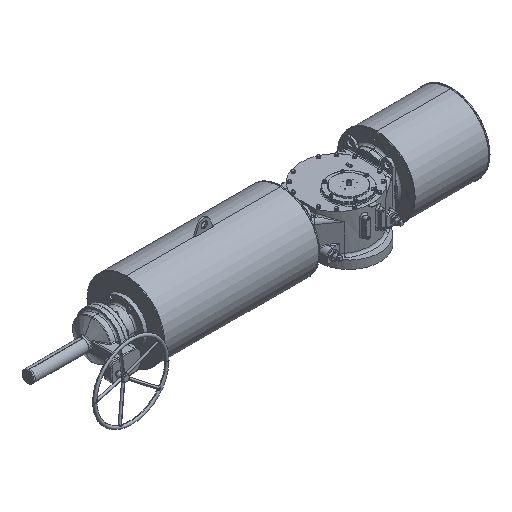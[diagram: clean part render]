
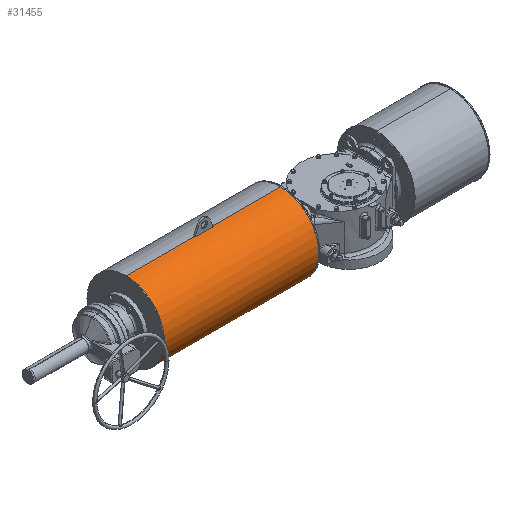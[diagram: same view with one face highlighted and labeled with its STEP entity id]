
A CAD part, isometric view. The second image highlights one B-rep face of the part: STEP entity #31455.
In plain terms, the highlighted cylindrical face has radius 254 mm (diameter 508 mm), a partial arc.
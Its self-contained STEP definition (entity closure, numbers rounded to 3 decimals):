
#366 = EDGE_CURVE ( 'NONE', #21707, #100283, #50944, .T. ) ;
#1524 = EDGE_CURVE ( 'NONE', #23659, #24253, #75421, .T. ) ;
#3847 = LINE ( 'NONE', #37106, #80772 ) ;
#4558 = VERTEX_POINT ( 'NONE', #35256 ) ;
#6576 = AXIS2_PLACEMENT_3D ( 'NONE', #62138, #95925, #104665 ) ;
#8201 = DIRECTION ( 'NONE',  ( -1., 0., 0. ) ) ;
#10791 = EDGE_CURVE ( 'NONE', #23659, #24315, #99770, .T. ) ;
#13623 = EDGE_CURVE ( 'NONE', #91196, #66374, #3847, .T. ) ;
#15274 = EDGE_CURVE ( 'NONE', #4558, #21707, #53353, .T. ) ;
#17625 = DIRECTION ( 'NONE',  ( 0., 0., -1. ) ) ;
#17969 = CARTESIAN_POINT ( 'NONE',  ( -887.5, 135., 366.951 ) ) ;
#21707 = VERTEX_POINT ( 'NONE', #85463 ) ;
#22866 = CARTESIAN_POINT ( 'NONE',  ( -1340.5, 140., 113. ) ) ;
#23573 = DIRECTION ( 'NONE',  ( 0., 0., -1. ) ) ;
#23659 = VERTEX_POINT ( 'NONE', #38846 ) ;
#24253 = VERTEX_POINT ( 'NONE', #102202 ) ;
#24315 = VERTEX_POINT ( 'NONE', #69404 ) ;
#24888 = ORIENTED_EDGE ( 'NONE', *, *, #366, .T. ) ;
#26447 = DIRECTION ( 'NONE',  ( 0., 0., -1. ) ) ;
#29868 = CARTESIAN_POINT ( 'NONE',  ( -767.5, 135., 366.951 ) ) ;
#31455 = ADVANCED_FACE ( 'NONE', ( #54470 ), #53945, .T. ) ;
#33050 = AXIS2_PLACEMENT_3D ( 'NONE', #52598, #78194, #26447 ) ;
#34321 = DIRECTION ( 'NONE',  ( -1., 0., 0. ) ) ;
#35234 = AXIS2_PLACEMENT_3D ( 'NONE', #58547, #57994, #65080 ) ;
#35256 = CARTESIAN_POINT ( 'NONE',  ( -887.5, 140., 367. ) ) ;
#36172 = CARTESIAN_POINT ( 'NONE',  ( -314.5, 140., 113. ) ) ;
#37106 = CARTESIAN_POINT ( 'NONE',  ( -317.5, 140., 367. ) ) ;
#38162 = VECTOR ( 'NONE', #8201, 1000. ) ;
#38846 = CARTESIAN_POINT ( 'NONE',  ( -314.5, 140., -141. ) ) ;
#39948 = DIRECTION ( 'NONE',  ( 1., 0., 0. ) ) ;
#40449 = ORIENTED_EDGE ( 'NONE', *, *, #102145, .F. ) ;
#42048 = LINE ( 'NONE', #106985, #63899 ) ;
#43800 = ORIENTED_EDGE ( 'NONE', *, *, #85039, .T. ) ;
#46987 = ORIENTED_EDGE ( 'NONE', *, *, #107088, .T. ) ;
#47384 = DIRECTION ( 'NONE',  ( 1., 0., 0. ) ) ;
#48527 = CARTESIAN_POINT ( 'NONE',  ( -317.5, 140., -141. ) ) ;
#49247 = EDGE_LOOP ( 'NONE', ( #60679, #105559, #80874, #46987, #40449, #54357, #100102, #24888, #43800, #96747 ) ) ;
#50944 = CIRCLE ( 'NONE', #35234, 254. ) ;
#52598 = CARTESIAN_POINT ( 'NONE',  ( -314.5, 140., 113. ) ) ;
#53145 = EDGE_CURVE ( 'NONE', #96378, #4558, #98437, .T. ) ;
#53353 = LINE ( 'NONE', #86586, #100306 ) ;
#53645 = CIRCLE ( 'NONE', #57143, 254. ) ;
#53945 = CYLINDRICAL_SURFACE ( 'NONE', #6576, 254. ) ;
#54357 = ORIENTED_EDGE ( 'NONE', *, *, #53145, .T. ) ;
#54470 = FACE_OUTER_BOUND ( 'NONE', #49247, .T. ) ;
#57143 = AXIS2_PLACEMENT_3D ( 'NONE', #22866, #47384, #106310 ) ;
#57646 = CIRCLE ( 'NONE', #89079, 254. ) ;
#57994 = DIRECTION ( 'NONE',  ( 1., 0., 0. ) ) ;
#58547 = CARTESIAN_POINT ( 'NONE',  ( -1340.5, 140., 113. ) ) ;
#60679 = ORIENTED_EDGE ( 'NONE', *, *, #1524, .T. ) ;
#60775 = DIRECTION ( 'NONE',  ( 0., 0., 1. ) ) ;
#61445 = EDGE_CURVE ( 'NONE', #24253, #91196, #95771, .T. ) ;
#62138 = CARTESIAN_POINT ( 'NONE',  ( -317.5, 140., 113. ) ) ;
#62377 = DIRECTION ( 'NONE',  ( -1., 0., 0. ) ) ;
#63899 = VECTOR ( 'NONE', #65499, 1000. ) ;
#64470 = CARTESIAN_POINT ( 'NONE',  ( -767.5, 140., 113. ) ) ;
#65080 = DIRECTION ( 'NONE',  ( 0., 0., -1. ) ) ;
#65499 = DIRECTION ( 'NONE',  ( 1., 0., 0. ) ) ;
#66374 = VERTEX_POINT ( 'NONE', #80586 ) ;
#68611 = VERTEX_POINT ( 'NONE', #29868 ) ;
#69404 = CARTESIAN_POINT ( 'NONE',  ( -1340.5, 140., -141. ) ) ;
#69966 = CARTESIAN_POINT ( 'NONE',  ( -887.5, 140., 113. ) ) ;
#73627 = AXIS2_PLACEMENT_3D ( 'NONE', #36172, #92343, #17625 ) ;
#75421 = CIRCLE ( 'NONE', #73627, 254. ) ;
#78194 = DIRECTION ( 'NONE',  ( -1., 0., 0. ) ) ;
#80586 = CARTESIAN_POINT ( 'NONE',  ( -767.5, 140., 367. ) ) ;
#80772 = VECTOR ( 'NONE', #87239, 1000. ) ;
#80874 = ORIENTED_EDGE ( 'NONE', *, *, #13623, .T. ) ;
#82555 = CARTESIAN_POINT ( 'NONE',  ( -1340.5, -114., 113. ) ) ;
#85039 = EDGE_CURVE ( 'NONE', #100283, #24315, #53645, .T. ) ;
#85463 = CARTESIAN_POINT ( 'NONE',  ( -1340.5, 140., 367. ) ) ;
#86586 = CARTESIAN_POINT ( 'NONE',  ( -317.5, 140., 367. ) ) ;
#87239 = DIRECTION ( 'NONE',  ( -1., 0., 0. ) ) ;
#89079 = AXIS2_PLACEMENT_3D ( 'NONE', #64470, #39948, #23573 ) ;
#91196 = VERTEX_POINT ( 'NONE', #103798 ) ;
#92343 = DIRECTION ( 'NONE',  ( -1., 0., 0. ) ) ;
#93159 = AXIS2_PLACEMENT_3D ( 'NONE', #69966, #62377, #60775 ) ;
#95771 = CIRCLE ( 'NONE', #33050, 254. ) ;
#95925 = DIRECTION ( 'NONE',  ( -1., 0., 0. ) ) ;
#96378 = VERTEX_POINT ( 'NONE', #17969 ) ;
#96747 = ORIENTED_EDGE ( 'NONE', *, *, #10791, .F. ) ;
#98437 = CIRCLE ( 'NONE', #93159, 254. ) ;
#99770 = LINE ( 'NONE', #48527, #38162 ) ;
#100102 = ORIENTED_EDGE ( 'NONE', *, *, #15274, .T. ) ;
#100283 = VERTEX_POINT ( 'NONE', #82555 ) ;
#100306 = VECTOR ( 'NONE', #34321, 1000. ) ;
#102145 = EDGE_CURVE ( 'NONE', #96378, #68611, #42048, .T. ) ;
#102202 = CARTESIAN_POINT ( 'NONE',  ( -314.5, -114., 113. ) ) ;
#103798 = CARTESIAN_POINT ( 'NONE',  ( -314.5, 140., 367. ) ) ;
#104665 = DIRECTION ( 'NONE',  ( 0., 0., -1. ) ) ;
#105559 = ORIENTED_EDGE ( 'NONE', *, *, #61445, .T. ) ;
#106310 = DIRECTION ( 'NONE',  ( 0., 0., -1. ) ) ;
#106985 = CARTESIAN_POINT ( 'NONE',  ( -317.5, 135., 366.951 ) ) ;
#107088 = EDGE_CURVE ( 'NONE', #66374, #68611, #57646, .T. ) ;
